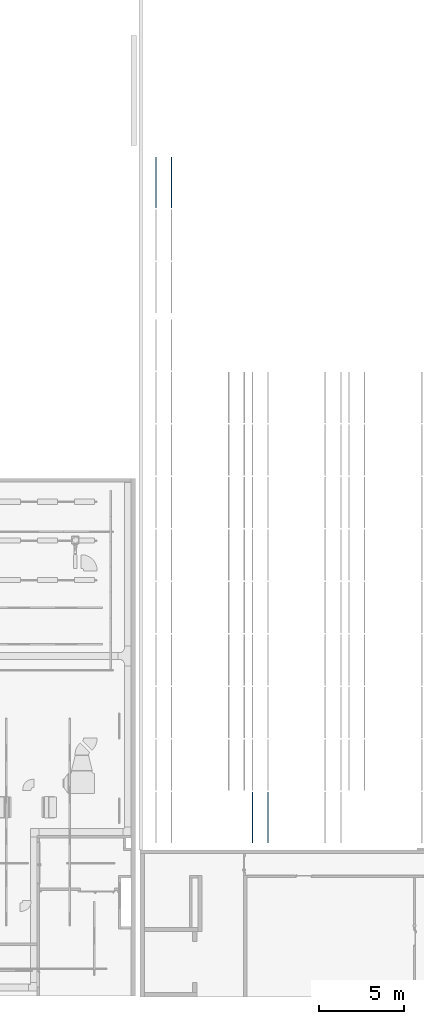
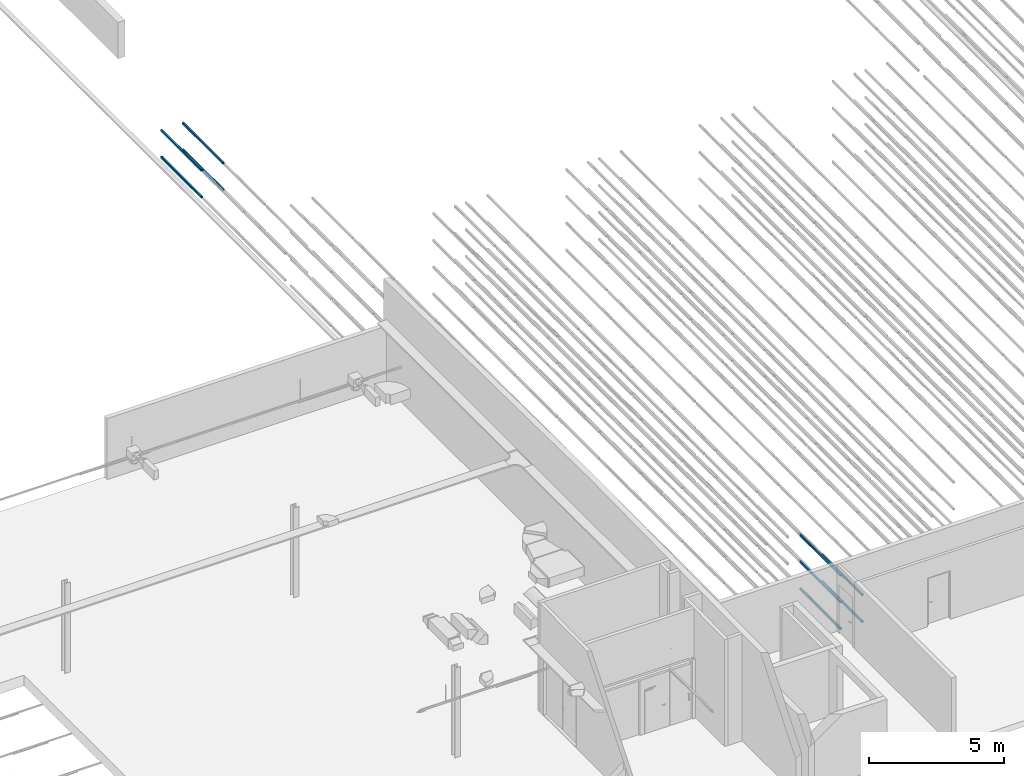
# One storey, part 18 of 290: 9 beams.
"""IFC2X3 building model written with IfcOpenShell, lengths in metres."""

from ifc_helpers import new_model, entity, si_unit, converted_unit, derived_unit, direction, frame, frame_2d, origin, place, context, subcontext, project, spatial, polyline, circle_curve, parameter, trimmed, segment, composite_curve, outline, extrude, material, type_object, element, save


model = new_model("IFC2X3")

# Units and contexts
model_context = context("Model", 3, precision=1e-05, world=origin(), true_north=direction((6.12303176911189e-17, 1.0)))
body_context = subcontext(model_context, "Body", "Model", "MODEL_VIEW")
ifc_project = project(units=[si_unit("LENGTHUNIT", "METRE"), si_unit("AREAUNIT", "SQUARE_METRE"), si_unit("VOLUMEUNIT", "CUBIC_METRE"), converted_unit("PLANEANGLEUNIT", "DEGREE", entity("IfcRatioMeasure", 0.0174532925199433), si_unit("PLANEANGLEUNIT", "RADIAN"), dimensions=[0, 0, 0, 0, 0, 0, 0]), si_unit("MASSUNIT", "GRAM", prefix="KILO"), derived_unit("MASSDENSITYUNIT", [(si_unit("MASSUNIT", "GRAM", prefix="KILO"), 1), (si_unit("LENGTHUNIT", "METRE"), -3)]), derived_unit("MOMENTOFINERTIAUNIT", [(si_unit("LENGTHUNIT", "METRE"), 4)]), si_unit("TIMEUNIT", "SECOND"), si_unit("FREQUENCYUNIT", "HERTZ"), si_unit("THERMODYNAMICTEMPERATUREUNIT", "DEGREE_CELSIUS"), derived_unit("THERMALTRANSMITTANCEUNIT", [(si_unit("MASSUNIT", "GRAM", prefix="KILO"), 1), (si_unit("THERMODYNAMICTEMPERATUREUNIT", "KELVIN"), -1), (si_unit("TIMEUNIT", "SECOND"), -3)]), derived_unit("VOLUMETRICFLOWRATEUNIT", [(si_unit("LENGTHUNIT", "METRE"), 3), (si_unit("TIMEUNIT", "SECOND"), -1)]), si_unit("ELECTRICCURRENTUNIT", "AMPERE"), si_unit("ELECTRICVOLTAGEUNIT", "VOLT"), si_unit("POWERUNIT", "WATT"), si_unit("FORCEUNIT", "NEWTON", prefix="KILO"), si_unit("ILLUMINANCEUNIT", "LUX"), si_unit("LUMINOUSFLUXUNIT", "LUMEN"), si_unit("LUMINOUSINTENSITYUNIT", "CANDELA"), derived_unit("USERDEFINED", [(si_unit("MASSUNIT", "GRAM", prefix="KILO"), -1), (si_unit("LENGTHUNIT", "METRE"), -2), (si_unit("TIMEUNIT", "SECOND"), 3), (si_unit("LUMINOUSFLUXUNIT", "LUMEN"), 1)]), derived_unit("LINEARVELOCITYUNIT", [(si_unit("LENGTHUNIT", "METRE"), 1), (si_unit("TIMEUNIT", "SECOND"), -1)]), si_unit("PRESSUREUNIT", "PASCAL"), derived_unit("USERDEFINED", [(si_unit("LENGTHUNIT", "METRE"), -2), (si_unit("MASSUNIT", "GRAM", prefix="KILO"), 1), (si_unit("TIMEUNIT", "SECOND"), -2)]), derived_unit("LINEARFORCEUNIT", [(si_unit("MASSUNIT", "GRAM", prefix="KILO"), 1), (si_unit("LENGTHUNIT", "METRE"), 1), (si_unit("TIMEUNIT", "SECOND"), -2), (si_unit("LENGTHUNIT", "METRE"), -1)]), derived_unit("PLANARFORCEUNIT", [(si_unit("MASSUNIT", "GRAM", prefix="KILO"), 1), (si_unit("LENGTHUNIT", "METRE"), 1), (si_unit("TIMEUNIT", "SECOND"), -2), (si_unit("LENGTHUNIT", "METRE"), -2)])], contexts=[model_context])

# Site, building, storey
site_placement = place(None, origin())
site = spatial("IfcSite", under=ifc_project, at=site_placement, Name="Default", CompositionType="ELEMENT")
building_placement = place(site_placement, origin())
building = spatial("IfcBuilding", under=site, at=building_placement, CompositionType="ELEMENT")
storey_placement = place(building_placement, frame((0.0, 0.0, 4.0)))
storey = spatial("IfcBuildingStorey", under=building, at=storey_placement, Name="01_OG", CompositionType="ELEMENT", Elevation=4.0)

# Beams
ifc_material = material(Name="Metall - Baustahl S235 blau")
beam_type = type_object("IfcBeamType", Name="RHS Träger (EN 10219-2):RHS 100 x 75 x 5", PredefinedType="NOTDEFINED")
beam_1_placement = place(storey_placement, frame((-200.715111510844, 24.048088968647, 0.0150000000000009), z_axis=(0.0, 0.0, 1.0), x_axis=(0.0, 1.0, 0.0)))
element("IfcBeam", 1, at=beam_1_placement, inside=storey, type_object=beam_type, material=ifc_material, Name="RHS Träger (EN 10219-2):RHS 100 x 75 x 5", ObjectType="RHS Träger (EN 10219-2):RHS 100 x 75 x 5", context=body_context, shape_type="SweptSolid", body=[
    extrude(outline(composite_curve([segment(trimmed(circle_curve(frame_2d((-0.0274999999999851, -0.0400000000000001), x_axis=(1.0, 0.0)), 0.01), [parameter(180.0)], [parameter(270.0)], True, "PARAMETER"), True, "CONTINUOUS"), segment(polyline([(-0.0274999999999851, -0.05), (0.0274999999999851, -0.05)]), True, "CONTINUOUS"), segment(trimmed(circle_curve(frame_2d((0.0274999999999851, -0.0400000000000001), x_axis=(1.0, 0.0)), 0.01), [parameter(270.0)], [parameter(5.08888749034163e-14)], True, "PARAMETER"), True, "CONTINUOUS"), segment(polyline([(0.0375000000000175, -0.0400000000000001), (0.0375000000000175, 0.0400000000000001)]), True, "CONTINUOUS"), segment(trimmed(circle_curve(frame_2d((0.0274999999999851, 0.0400000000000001), x_axis=(1.0, 0.0)), 0.01), [parameter(360.0)], [parameter(89.9999999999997)], True, "PARAMETER"), True, "CONTINUOUS"), segment(polyline([(0.0274999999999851, 0.05), (-0.0274999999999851, 0.05)]), True, "CONTINUOUS"), segment(trimmed(circle_curve(frame_2d((-0.0274999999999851, 0.0400000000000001), x_axis=(1.0, 0.0)), 0.01), [parameter(90.0000000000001)], [parameter(180.0)], True, "PARAMETER"), True, "CONTINUOUS"), segment(polyline([(-0.0374999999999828, 0.0400000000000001), (-0.0374999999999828, -0.0400000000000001)]), True, "CONTINUOUS")], self_intersect=False), holes=[composite_curve([segment(polyline([(0.0274999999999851, -0.0450000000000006), (-0.0274999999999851, -0.0450000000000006)]), True, "CONTINUOUS"), segment(trimmed(circle_curve(frame_2d((-0.0274999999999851, -0.0400000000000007), x_axis=(1.0, 0.0)), 0.005), [parameter(180.0)], [parameter(270.0)], True, "PARAMETER"), False, "CONTINUOUS"), segment(polyline([(-0.0325000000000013, -0.0400000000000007), (-0.0325000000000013, 0.039999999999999)]), True, "CONTINUOUS"), segment(trimmed(circle_curve(frame_2d((-0.0274999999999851, 0.039999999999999), x_axis=(1.0, 0.0)), 0.005), [parameter(90.0000000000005)], [parameter(180.0)], True, "PARAMETER"), False, "CONTINUOUS"), segment(polyline([(-0.0274999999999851, 0.044999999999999), (0.0274999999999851, 0.044999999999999)]), True, "CONTINUOUS"), segment(trimmed(circle_curve(frame_2d((0.0274999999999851, 0.039999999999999), x_axis=(1.0, 0.0)), 0.005), [parameter(0.0)], [parameter(90.0000000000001)], True, "PARAMETER"), False, "CONTINUOUS"), segment(polyline([(0.0325000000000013, 0.039999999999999), (0.0325000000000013, -0.0400000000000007)]), True, "CONTINUOUS"), segment(trimmed(circle_curve(frame_2d((0.0274999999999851, -0.0400000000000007), x_axis=(1.0, 0.0)), 0.005), [parameter(270.0)], [parameter(4.07110999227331e-13)], True, "PARAMETER"), False, "CONTINUOUS")], self_intersect=False)]), frame((9.99999999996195e-05, 0.0375000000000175, -0.0500000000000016), z_axis=(1.0, 0.0, 0.0), x_axis=(0.0, -1.0, 0.0)), (0.0, 0.0, 1.0), 2.9998),
])
beam_2_placement = place(storey_placement, frame((-200.715111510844, 24.048088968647, 1.23), z_axis=(0.0, 0.0, 1.0), x_axis=(0.0, 1.0, 0.0)))
element("IfcBeam", 2, at=beam_2_placement, inside=storey, type_object=beam_type, material=ifc_material, Name="RHS Träger (EN 10219-2):RHS 100 x 75 x 5", ObjectType="RHS Träger (EN 10219-2):RHS 100 x 75 x 5", context=body_context, shape_type="SweptSolid", body=[
    extrude(outline(composite_curve([segment(trimmed(circle_curve(frame_2d((-0.0274999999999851, -0.0399999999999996), x_axis=(1.0, 0.0)), 0.01), [parameter(180.0)], [parameter(270.0)], True, "PARAMETER"), True, "CONTINUOUS"), segment(polyline([(-0.0274999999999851, -0.0499999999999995), (0.0274999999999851, -0.0499999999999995)]), True, "CONTINUOUS"), segment(trimmed(circle_curve(frame_2d((0.0274999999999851, -0.0399999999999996), x_axis=(1.0, 0.0)), 0.01), [parameter(270.0)], [parameter(5.08888749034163e-14)], True, "PARAMETER"), True, "CONTINUOUS"), segment(polyline([(0.0375000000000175, -0.0399999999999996), (0.0375000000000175, 0.0399999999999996)]), True, "CONTINUOUS"), segment(trimmed(circle_curve(frame_2d((0.0274999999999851, 0.0399999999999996), x_axis=(1.0, 0.0)), 0.01), [parameter(360.0)], [parameter(89.9999999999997)], True, "PARAMETER"), True, "CONTINUOUS"), segment(polyline([(0.0274999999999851, 0.0500000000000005), (-0.0274999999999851, 0.0500000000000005)]), True, "CONTINUOUS"), segment(trimmed(circle_curve(frame_2d((-0.0274999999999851, 0.0399999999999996), x_axis=(1.0, 0.0)), 0.01), [parameter(90.0000000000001)], [parameter(180.0)], True, "PARAMETER"), True, "CONTINUOUS"), segment(polyline([(-0.0374999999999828, 0.0399999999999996), (-0.0374999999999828, -0.0399999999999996)]), True, "CONTINUOUS")], self_intersect=False), holes=[composite_curve([segment(polyline([(0.0274999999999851, -0.0450000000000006), (-0.0274999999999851, -0.0450000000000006)]), True, "CONTINUOUS"), segment(trimmed(circle_curve(frame_2d((-0.0274999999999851, -0.0400000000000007), x_axis=(1.0, 0.0)), 0.005), [parameter(180.0)], [parameter(270.0)], True, "PARAMETER"), False, "CONTINUOUS"), segment(polyline([(-0.0325000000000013, -0.0400000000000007), (-0.0325000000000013, 0.0399999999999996)]), True, "CONTINUOUS"), segment(trimmed(circle_curve(frame_2d((-0.0274999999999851, 0.0399999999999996), x_axis=(1.0, 0.0)), 0.005), [parameter(90.0000000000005)], [parameter(180.0)], True, "PARAMETER"), False, "CONTINUOUS"), segment(polyline([(-0.0274999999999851, 0.0449999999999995), (0.0274999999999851, 0.0449999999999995)]), True, "CONTINUOUS"), segment(trimmed(circle_curve(frame_2d((0.0274999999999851, 0.0399999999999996), x_axis=(1.0, 0.0)), 0.005), [parameter(0.0)], [parameter(90.0000000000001)], True, "PARAMETER"), False, "CONTINUOUS"), segment(polyline([(0.0325000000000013, 0.0399999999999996), (0.0325000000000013, -0.0400000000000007)]), True, "CONTINUOUS"), segment(trimmed(circle_curve(frame_2d((0.0274999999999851, -0.0400000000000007), x_axis=(1.0, 0.0)), 0.005), [parameter(270.0)], [parameter(4.07110999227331e-13)], True, "PARAMETER"), False, "CONTINUOUS")], self_intersect=False)]), frame((9.99999999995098e-05, 0.0375000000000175, -0.0500000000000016), z_axis=(1.0, 0.0, 0.0), x_axis=(0.0, -1.0, 0.0)), (0.0, 0.0, 1.0), 2.9998),
])
beam_3_placement = place(storey_placement, frame((-200.715111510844, 24.048088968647, 2.445), z_axis=(0.0, 0.0, 1.0), x_axis=(0.0, 1.0, 0.0)))
element("IfcBeam", 3, at=beam_3_placement, inside=storey, type_object=beam_type, material=ifc_material, Name="RHS Träger (EN 10219-2):RHS 100 x 75 x 5", ObjectType="RHS Träger (EN 10219-2):RHS 100 x 75 x 5", context=body_context, shape_type="SweptSolid", body=[
    extrude(outline(composite_curve([segment(trimmed(circle_curve(frame_2d((-0.0274999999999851, -0.0399999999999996), x_axis=(1.0, 0.0)), 0.01), [parameter(180.0)], [parameter(270.0)], True, "PARAMETER"), True, "CONTINUOUS"), segment(polyline([(-0.0274999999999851, -0.0499999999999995), (0.0274999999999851, -0.0499999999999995)]), True, "CONTINUOUS"), segment(trimmed(circle_curve(frame_2d((0.0274999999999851, -0.0399999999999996), x_axis=(1.0, 0.0)), 0.01), [parameter(270.0)], [parameter(5.08888749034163e-14)], True, "PARAMETER"), True, "CONTINUOUS"), segment(polyline([(0.0375000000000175, -0.0399999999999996), (0.0375000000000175, 0.0399999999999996)]), True, "CONTINUOUS"), segment(trimmed(circle_curve(frame_2d((0.0274999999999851, 0.0399999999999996), x_axis=(1.0, 0.0)), 0.01), [parameter(360.0)], [parameter(89.9999999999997)], True, "PARAMETER"), True, "CONTINUOUS"), segment(polyline([(0.0274999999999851, 0.0500000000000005), (-0.0274999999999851, 0.0500000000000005)]), True, "CONTINUOUS"), segment(trimmed(circle_curve(frame_2d((-0.0274999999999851, 0.0399999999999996), x_axis=(1.0, 0.0)), 0.01), [parameter(90.0000000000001)], [parameter(180.0)], True, "PARAMETER"), True, "CONTINUOUS"), segment(polyline([(-0.0374999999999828, 0.0399999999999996), (-0.0374999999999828, -0.0399999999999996)]), True, "CONTINUOUS")], self_intersect=False), holes=[composite_curve([segment(polyline([(0.0274999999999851, -0.0450000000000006), (-0.0274999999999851, -0.0450000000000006)]), True, "CONTINUOUS"), segment(trimmed(circle_curve(frame_2d((-0.0274999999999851, -0.0400000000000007), x_axis=(1.0, 0.0)), 0.005), [parameter(180.0)], [parameter(270.0)], True, "PARAMETER"), False, "CONTINUOUS"), segment(polyline([(-0.0325000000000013, -0.0400000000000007), (-0.0325000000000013, 0.0399999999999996)]), True, "CONTINUOUS"), segment(trimmed(circle_curve(frame_2d((-0.0274999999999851, 0.0399999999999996), x_axis=(1.0, 0.0)), 0.005), [parameter(90.0000000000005)], [parameter(180.0)], True, "PARAMETER"), False, "CONTINUOUS"), segment(polyline([(-0.0274999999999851, 0.0449999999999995), (0.0274999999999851, 0.0449999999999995)]), True, "CONTINUOUS"), segment(trimmed(circle_curve(frame_2d((0.0274999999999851, 0.0399999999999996), x_axis=(1.0, 0.0)), 0.005), [parameter(0.0)], [parameter(90.0000000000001)], True, "PARAMETER"), False, "CONTINUOUS"), segment(polyline([(0.0325000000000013, 0.0399999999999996), (0.0325000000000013, -0.0400000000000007)]), True, "CONTINUOUS"), segment(trimmed(circle_curve(frame_2d((0.0274999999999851, -0.0400000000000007), x_axis=(1.0, 0.0)), 0.005), [parameter(270.0)], [parameter(4.07110999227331e-13)], True, "PARAMETER"), False, "CONTINUOUS")], self_intersect=False)]), frame((9.99999999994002e-05, 0.0375000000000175, -0.0500000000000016), z_axis=(1.0, 0.0, 0.0), x_axis=(0.0, -1.0, 0.0)), (0.0, 0.0, 1.0), 2.9998),
])
beam_4_placement = place(storey_placement, frame((-199.865111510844, 24.048088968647, 0.0150000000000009), z_axis=(0.0, 0.0, 1.0), x_axis=(0.0, 1.0, 0.0)))
element("IfcBeam", 4, at=beam_4_placement, inside=storey, type_object=beam_type, material=ifc_material, Name="RHS Träger (EN 10219-2):RHS 100 x 75 x 5", ObjectType="RHS Träger (EN 10219-2):RHS 100 x 75 x 5", context=body_context, shape_type="SweptSolid", body=[
    extrude(outline(composite_curve([segment(polyline([(-0.0400000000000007, -0.0374999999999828), (0.0399999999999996, -0.0374999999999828)]), True, "CONTINUOUS"), segment(trimmed(circle_curve(frame_2d((0.0399999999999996, -0.0274999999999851), x_axis=(0.0, 1.0)), 0.01), [parameter(180.0)], [parameter(270.0)], True, "PARAMETER"), True, "CONTINUOUS"), segment(polyline([(0.0499999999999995, -0.0274999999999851), (0.0499999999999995, 0.0274999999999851)]), True, "CONTINUOUS"), segment(trimmed(circle_curve(frame_2d((0.0399999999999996, 0.0274999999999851), x_axis=(0.0, 1.0)), 0.01), [parameter(270.0)], [parameter(4.07110999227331e-13)], True, "PARAMETER"), True, "CONTINUOUS"), segment(polyline([(0.0399999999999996, 0.0375000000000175), (-0.0400000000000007, 0.0375000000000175)]), True, "CONTINUOUS"), segment(trimmed(circle_curve(frame_2d((-0.0400000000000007, 0.0274999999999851), x_axis=(0.0, 1.0)), 0.01), [parameter(360.0)], [parameter(90.0000000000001)], True, "PARAMETER"), True, "CONTINUOUS"), segment(polyline([(-0.0500000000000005, 0.0274999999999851), (-0.0500000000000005, -0.0274999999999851)]), True, "CONTINUOUS"), segment(trimmed(circle_curve(frame_2d((-0.0400000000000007, -0.0274999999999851), x_axis=(0.0, 1.0)), 0.01), [parameter(90.0000000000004)], [parameter(180.0)], True, "PARAMETER"), True, "CONTINUOUS")], self_intersect=False), holes=[composite_curve([segment(trimmed(circle_curve(frame_2d((-0.0400000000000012, 0.0274999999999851), x_axis=(0.0, 1.0)), 0.005), [parameter(360.0)], [parameter(89.9999999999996)], True, "PARAMETER"), False, "CONTINUOUS"), segment(polyline([(-0.0400000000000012, 0.0325000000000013), (0.0399999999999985, 0.0325000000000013)]), True, "CONTINUOUS"), segment(trimmed(circle_curve(frame_2d((0.0399999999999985, 0.0274999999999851), x_axis=(0.0, 1.0)), 0.005), [parameter(270.0)], [parameter(0.0)], True, "PARAMETER"), False, "CONTINUOUS"), segment(polyline([(0.0449999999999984, 0.0274999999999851), (0.0449999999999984, -0.0274999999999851)]), True, "CONTINUOUS"), segment(trimmed(circle_curve(frame_2d((0.0399999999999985, -0.0274999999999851), x_axis=(0.0, 1.0)), 0.005), [parameter(180.0)], [parameter(269.999999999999)], True, "PARAMETER"), False, "CONTINUOUS"), segment(polyline([(0.0399999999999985, -0.0325000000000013), (-0.0400000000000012, -0.0325000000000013)]), True, "CONTINUOUS"), segment(trimmed(circle_curve(frame_2d((-0.0400000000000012, -0.0274999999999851), x_axis=(0.0, 1.0)), 0.005), [parameter(90.0000000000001)], [parameter(180.0)], True, "PARAMETER"), False, "CONTINUOUS"), segment(polyline([(-0.0450000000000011, -0.0274999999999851), (-0.0450000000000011, 0.0274999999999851)]), True, "CONTINUOUS")], self_intersect=False)]), frame((9.99999999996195e-05, -0.0375000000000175, -0.0500000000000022), z_axis=(1.0, 0.0, 0.0), x_axis=(0.0, 0.0, -1.0)), (0.0, 0.0, 1.0), 2.9998),
])
beam_5_placement = place(storey_placement, frame((-199.865111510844, 24.048088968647, 1.23), z_axis=(0.0, 0.0, 1.0), x_axis=(0.0, 1.0, 0.0)))
element("IfcBeam", 5, at=beam_5_placement, inside=storey, type_object=beam_type, material=ifc_material, Name="RHS Träger (EN 10219-2):RHS 100 x 75 x 5", ObjectType="RHS Träger (EN 10219-2):RHS 100 x 75 x 5", context=body_context, shape_type="SweptSolid", body=[
    extrude(outline(composite_curve([segment(polyline([(-0.0399999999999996, -0.0374999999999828), (0.0399999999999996, -0.0374999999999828)]), True, "CONTINUOUS"), segment(trimmed(circle_curve(frame_2d((0.0399999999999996, -0.0274999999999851), x_axis=(0.0, 1.0)), 0.01), [parameter(180.0)], [parameter(270.0)], True, "PARAMETER"), True, "CONTINUOUS"), segment(polyline([(0.0500000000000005, -0.0274999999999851), (0.0500000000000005, 0.0274999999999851)]), True, "CONTINUOUS"), segment(trimmed(circle_curve(frame_2d((0.0399999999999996, 0.0274999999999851), x_axis=(0.0, 1.0)), 0.01), [parameter(270.0)], [parameter(4.07110999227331e-13)], True, "PARAMETER"), True, "CONTINUOUS"), segment(polyline([(0.0399999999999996, 0.0375000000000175), (-0.0399999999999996, 0.0375000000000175)]), True, "CONTINUOUS"), segment(trimmed(circle_curve(frame_2d((-0.0399999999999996, 0.0274999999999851), x_axis=(0.0, 1.0)), 0.01), [parameter(360.0)], [parameter(90.0000000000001)], True, "PARAMETER"), True, "CONTINUOUS"), segment(polyline([(-0.0499999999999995, 0.0274999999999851), (-0.0499999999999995, -0.0274999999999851)]), True, "CONTINUOUS"), segment(trimmed(circle_curve(frame_2d((-0.0399999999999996, -0.0274999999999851), x_axis=(0.0, 1.0)), 0.01), [parameter(90.0000000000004)], [parameter(180.0)], True, "PARAMETER"), True, "CONTINUOUS")], self_intersect=False), holes=[composite_curve([segment(trimmed(circle_curve(frame_2d((-0.0400000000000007, 0.0274999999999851), x_axis=(0.0, 1.0)), 0.005), [parameter(360.0)], [parameter(89.9999999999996)], True, "PARAMETER"), False, "CONTINUOUS"), segment(polyline([(-0.0400000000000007, 0.0325000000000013), (0.0399999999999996, 0.0325000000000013)]), True, "CONTINUOUS"), segment(trimmed(circle_curve(frame_2d((0.0399999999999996, 0.0274999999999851), x_axis=(0.0, 1.0)), 0.005), [parameter(270.0)], [parameter(0.0)], True, "PARAMETER"), False, "CONTINUOUS"), segment(polyline([(0.0449999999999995, 0.0274999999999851), (0.0449999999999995, -0.0274999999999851)]), True, "CONTINUOUS"), segment(trimmed(circle_curve(frame_2d((0.0399999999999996, -0.0274999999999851), x_axis=(0.0, 1.0)), 0.005), [parameter(180.0)], [parameter(269.999999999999)], True, "PARAMETER"), False, "CONTINUOUS"), segment(polyline([(0.0399999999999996, -0.0325000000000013), (-0.0400000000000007, -0.0325000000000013)]), True, "CONTINUOUS"), segment(trimmed(circle_curve(frame_2d((-0.0400000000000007, -0.0274999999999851), x_axis=(0.0, 1.0)), 0.005), [parameter(90.0000000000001)], [parameter(180.0)], True, "PARAMETER"), False, "CONTINUOUS"), segment(polyline([(-0.0450000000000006, -0.0274999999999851), (-0.0450000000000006, 0.0274999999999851)]), True, "CONTINUOUS")], self_intersect=False)]), frame((9.99999999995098e-05, -0.0375000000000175, -0.0500000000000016), z_axis=(1.0, 0.0, 0.0), x_axis=(0.0, 0.0, -1.0)), (0.0, 0.0, 1.0), 2.9998),
])
beam_6_placement = place(storey_placement, frame((-206.415111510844, 61.5488562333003, -1.2), z_axis=(0.0, 0.0, 1.0), x_axis=(0.0, 1.0, 0.0)))
element("IfcBeam", 6, at=beam_6_placement, inside=storey, type_object=beam_type, material=ifc_material, Name="RHS Träger (EN 10219-2):RHS 100 x 75 x 5", ObjectType="RHS Träger (EN 10219-2):RHS 100 x 75 x 5", context=body_context, shape_type="SweptSolid", body=[
    extrude(outline(composite_curve([segment(trimmed(circle_curve(frame_2d((-0.0274999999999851, -0.0400000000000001), x_axis=(1.0, 0.0)), 0.01), [parameter(180.0)], [parameter(270.0)], True, "PARAMETER"), True, "CONTINUOUS"), segment(polyline([(-0.0274999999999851, -0.0499999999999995), (0.0274999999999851, -0.0499999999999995)]), True, "CONTINUOUS"), segment(trimmed(circle_curve(frame_2d((0.0274999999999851, -0.0400000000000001), x_axis=(1.0, 0.0)), 0.01), [parameter(270.0)], [parameter(5.08888749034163e-14)], True, "PARAMETER"), True, "CONTINUOUS"), segment(polyline([(0.0375000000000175, -0.0399999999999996), (0.0375000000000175, 0.0400000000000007)]), True, "CONTINUOUS"), segment(trimmed(circle_curve(frame_2d((0.0274999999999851, 0.0400000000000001), x_axis=(1.0, 0.0)), 0.01), [parameter(360.0)], [parameter(89.9999999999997)], True, "PARAMETER"), True, "CONTINUOUS"), segment(polyline([(0.0274999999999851, 0.0500000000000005), (-0.0274999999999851, 0.0500000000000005)]), True, "CONTINUOUS"), segment(trimmed(circle_curve(frame_2d((-0.0274999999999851, 0.0400000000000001), x_axis=(1.0, 0.0)), 0.01), [parameter(90.0000000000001)], [parameter(180.0)], True, "PARAMETER"), True, "CONTINUOUS"), segment(polyline([(-0.0374999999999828, 0.0400000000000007), (-0.0374999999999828, -0.0399999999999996)]), True, "CONTINUOUS")], self_intersect=False), holes=[composite_curve([segment(polyline([(0.0274999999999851, -0.0450000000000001), (-0.0274999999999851, -0.0450000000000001)]), True, "CONTINUOUS"), segment(trimmed(circle_curve(frame_2d((-0.0274999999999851, -0.0400000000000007), x_axis=(1.0, 0.0)), 0.005), [parameter(180.0)], [parameter(270.0)], True, "PARAMETER"), False, "CONTINUOUS"), segment(polyline([(-0.0325000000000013, -0.0400000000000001), (-0.0325000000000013, 0.0399999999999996)]), True, "CONTINUOUS"), segment(trimmed(circle_curve(frame_2d((-0.0274999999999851, 0.039999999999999), x_axis=(1.0, 0.0)), 0.005), [parameter(90.0000000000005)], [parameter(180.0)], True, "PARAMETER"), False, "CONTINUOUS"), segment(polyline([(-0.0274999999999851, 0.0449999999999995), (0.0274999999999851, 0.0449999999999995)]), True, "CONTINUOUS"), segment(trimmed(circle_curve(frame_2d((0.0274999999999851, 0.039999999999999), x_axis=(1.0, 0.0)), 0.005), [parameter(0.0)], [parameter(90.0000000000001)], True, "PARAMETER"), False, "CONTINUOUS"), segment(polyline([(0.0325000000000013, 0.0399999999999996), (0.0325000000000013, -0.0400000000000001)]), True, "CONTINUOUS"), segment(trimmed(circle_curve(frame_2d((0.0274999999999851, -0.0400000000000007), x_axis=(1.0, 0.0)), 0.005), [parameter(270.0)], [parameter(4.07110999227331e-13)], True, "PARAMETER"), False, "CONTINUOUS")], self_intersect=False)]), frame((-0.000799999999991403, 0.0375000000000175, -0.0500000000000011), z_axis=(1.0, 0.0, 0.0), x_axis=(0.0, -1.0, 0.0)), (0.0, 0.0, 1.0), 3.00069999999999),
])
beam_7_placement = place(storey_placement, frame((-205.565111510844, 61.5488562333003, -1.2), z_axis=(0.0, 0.0, 1.0), x_axis=(0.0, 1.0, 0.0)))
element("IfcBeam", 7, at=beam_7_placement, inside=storey, type_object=beam_type, material=ifc_material, Name="RHS Träger (EN 10219-2):RHS 100 x 75 x 5", ObjectType="RHS Träger (EN 10219-2):RHS 100 x 75 x 5", context=body_context, shape_type="SweptSolid", body=[
    extrude(outline(composite_curve([segment(polyline([(-0.0400000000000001, -0.0374999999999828), (0.0400000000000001, -0.0374999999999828)]), True, "CONTINUOUS"), segment(trimmed(circle_curve(frame_2d((0.0399999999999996, -0.0274999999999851), x_axis=(0.0, 1.0)), 0.01), [parameter(180.0)], [parameter(270.0)], True, "PARAMETER"), True, "CONTINUOUS"), segment(polyline([(0.05, -0.0274999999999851), (0.05, 0.0274999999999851)]), True, "CONTINUOUS"), segment(trimmed(circle_curve(frame_2d((0.0399999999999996, 0.0274999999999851), x_axis=(0.0, 1.0)), 0.01), [parameter(270.0)], [parameter(4.07110999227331e-13)], True, "PARAMETER"), True, "CONTINUOUS"), segment(polyline([(0.0400000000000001, 0.0375000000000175), (-0.0400000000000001, 0.0375000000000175)]), True, "CONTINUOUS"), segment(trimmed(circle_curve(frame_2d((-0.0400000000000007, 0.0274999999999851), x_axis=(0.0, 1.0)), 0.01), [parameter(360.0)], [parameter(90.0000000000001)], True, "PARAMETER"), True, "CONTINUOUS"), segment(polyline([(-0.05, 0.0274999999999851), (-0.05, -0.0274999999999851)]), True, "CONTINUOUS"), segment(trimmed(circle_curve(frame_2d((-0.0400000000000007, -0.0274999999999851), x_axis=(0.0, 1.0)), 0.01), [parameter(90.0000000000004)], [parameter(180.0)], True, "PARAMETER"), True, "CONTINUOUS")], self_intersect=False), holes=[composite_curve([segment(trimmed(circle_curve(frame_2d((-0.0400000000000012, 0.0274999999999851), x_axis=(0.0, 1.0)), 0.005), [parameter(360.0)], [parameter(89.9999999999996)], True, "PARAMETER"), False, "CONTINUOUS"), segment(polyline([(-0.0400000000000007, 0.0325000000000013), (0.039999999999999, 0.0325000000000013)]), True, "CONTINUOUS"), segment(trimmed(circle_curve(frame_2d((0.0399999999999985, 0.0274999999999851), x_axis=(0.0, 1.0)), 0.005), [parameter(270.0)], [parameter(0.0)], True, "PARAMETER"), False, "CONTINUOUS"), segment(polyline([(0.044999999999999, 0.0274999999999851), (0.044999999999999, -0.0274999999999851)]), True, "CONTINUOUS"), segment(trimmed(circle_curve(frame_2d((0.0399999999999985, -0.0274999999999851), x_axis=(0.0, 1.0)), 0.005), [parameter(180.0)], [parameter(269.999999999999)], True, "PARAMETER"), False, "CONTINUOUS"), segment(polyline([(0.039999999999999, -0.0325000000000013), (-0.0400000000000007, -0.0325000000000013)]), True, "CONTINUOUS"), segment(trimmed(circle_curve(frame_2d((-0.0400000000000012, -0.0274999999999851), x_axis=(0.0, 1.0)), 0.005), [parameter(90.0000000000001)], [parameter(180.0)], True, "PARAMETER"), False, "CONTINUOUS"), segment(polyline([(-0.0450000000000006, -0.0274999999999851), (-0.0450000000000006, 0.0274999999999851)]), True, "CONTINUOUS")], self_intersect=False)]), frame((-0.000799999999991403, -0.0375000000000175, -0.0500000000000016), z_axis=(1.0, 0.0, 0.0), x_axis=(0.0, 0.0, -1.0)), (0.0, 0.0, 1.0), 3.00069999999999),
])
beam_8_placement = place(storey_placement, frame((-206.415111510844, 61.5488562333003, 0.0150000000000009), z_axis=(0.0, 0.0, 1.0), x_axis=(0.0, 1.0, 0.0)))
element("IfcBeam", 8, at=beam_8_placement, inside=storey, type_object=beam_type, material=ifc_material, Name="RHS Träger (EN 10219-2):RHS 100 x 75 x 5", ObjectType="RHS Träger (EN 10219-2):RHS 100 x 75 x 5", context=body_context, shape_type="SweptSolid", body=[
    extrude(outline(composite_curve([segment(trimmed(circle_curve(frame_2d((-0.0274999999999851, -0.0400000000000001), x_axis=(1.0, 0.0)), 0.01), [parameter(180.0)], [parameter(270.0)], True, "PARAMETER"), True, "CONTINUOUS"), segment(polyline([(-0.0274999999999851, -0.0499999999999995), (0.0274999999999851, -0.0499999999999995)]), True, "CONTINUOUS"), segment(trimmed(circle_curve(frame_2d((0.0274999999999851, -0.0400000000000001), x_axis=(1.0, 0.0)), 0.01), [parameter(270.0)], [parameter(5.08888749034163e-14)], True, "PARAMETER"), True, "CONTINUOUS"), segment(polyline([(0.0375000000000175, -0.0399999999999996), (0.0375000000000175, 0.0400000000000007)]), True, "CONTINUOUS"), segment(trimmed(circle_curve(frame_2d((0.0274999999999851, 0.0400000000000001), x_axis=(1.0, 0.0)), 0.01), [parameter(360.0)], [parameter(89.9999999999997)], True, "PARAMETER"), True, "CONTINUOUS"), segment(polyline([(0.0274999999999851, 0.0500000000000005), (-0.0274999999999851, 0.0500000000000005)]), True, "CONTINUOUS"), segment(trimmed(circle_curve(frame_2d((-0.0274999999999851, 0.0400000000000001), x_axis=(1.0, 0.0)), 0.01), [parameter(90.0000000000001)], [parameter(180.0)], True, "PARAMETER"), True, "CONTINUOUS"), segment(polyline([(-0.0374999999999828, 0.0400000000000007), (-0.0374999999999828, -0.0399999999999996)]), True, "CONTINUOUS")], self_intersect=False), holes=[composite_curve([segment(polyline([(0.0274999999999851, -0.0450000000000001), (-0.0274999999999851, -0.0450000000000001)]), True, "CONTINUOUS"), segment(trimmed(circle_curve(frame_2d((-0.0274999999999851, -0.0400000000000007), x_axis=(1.0, 0.0)), 0.005), [parameter(180.0)], [parameter(270.0)], True, "PARAMETER"), False, "CONTINUOUS"), segment(polyline([(-0.0325000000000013, -0.0400000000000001), (-0.0325000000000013, 0.0399999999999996)]), True, "CONTINUOUS"), segment(trimmed(circle_curve(frame_2d((-0.0274999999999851, 0.039999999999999), x_axis=(1.0, 0.0)), 0.005), [parameter(90.0000000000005)], [parameter(180.0)], True, "PARAMETER"), False, "CONTINUOUS"), segment(polyline([(-0.0274999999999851, 0.0449999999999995), (0.0274999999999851, 0.0449999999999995)]), True, "CONTINUOUS"), segment(trimmed(circle_curve(frame_2d((0.0274999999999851, 0.039999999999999), x_axis=(1.0, 0.0)), 0.005), [parameter(0.0)], [parameter(90.0000000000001)], True, "PARAMETER"), False, "CONTINUOUS"), segment(polyline([(0.0325000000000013, 0.0399999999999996), (0.0325000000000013, -0.0400000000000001)]), True, "CONTINUOUS"), segment(trimmed(circle_curve(frame_2d((0.0274999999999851, -0.0400000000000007), x_axis=(1.0, 0.0)), 0.005), [parameter(270.0)], [parameter(4.07110999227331e-13)], True, "PARAMETER"), False, "CONTINUOUS")], self_intersect=False)]), frame((-0.000799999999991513, 0.0375000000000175, -0.0500000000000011), z_axis=(1.0, 0.0, 0.0), x_axis=(0.0, -1.0, 0.0)), (0.0, 0.0, 1.0), 3.00069999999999),
])
beam_9_placement = place(storey_placement, frame((-205.565111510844, 61.5488562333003, 0.0150000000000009), z_axis=(0.0, 0.0, 1.0), x_axis=(0.0, 1.0, 0.0)))
element("IfcBeam", 9, at=beam_9_placement, inside=storey, type_object=beam_type, material=ifc_material, Name="RHS Träger (EN 10219-2):RHS 100 x 75 x 5", ObjectType="RHS Träger (EN 10219-2):RHS 100 x 75 x 5", context=body_context, shape_type="SweptSolid", body=[
    extrude(outline(composite_curve([segment(polyline([(-0.0400000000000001, -0.0374999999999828), (0.0400000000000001, -0.0374999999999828)]), True, "CONTINUOUS"), segment(trimmed(circle_curve(frame_2d((0.0399999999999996, -0.0274999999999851), x_axis=(0.0, 1.0)), 0.01), [parameter(180.0)], [parameter(270.0)], True, "PARAMETER"), True, "CONTINUOUS"), segment(polyline([(0.05, -0.0274999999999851), (0.05, 0.0274999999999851)]), True, "CONTINUOUS"), segment(trimmed(circle_curve(frame_2d((0.0399999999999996, 0.0274999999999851), x_axis=(0.0, 1.0)), 0.01), [parameter(270.0)], [parameter(4.07110999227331e-13)], True, "PARAMETER"), True, "CONTINUOUS"), segment(polyline([(0.0400000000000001, 0.0375000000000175), (-0.0400000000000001, 0.0375000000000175)]), True, "CONTINUOUS"), segment(trimmed(circle_curve(frame_2d((-0.0400000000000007, 0.0274999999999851), x_axis=(0.0, 1.0)), 0.01), [parameter(360.0)], [parameter(90.0000000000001)], True, "PARAMETER"), True, "CONTINUOUS"), segment(polyline([(-0.05, 0.0274999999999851), (-0.05, -0.0274999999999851)]), True, "CONTINUOUS"), segment(trimmed(circle_curve(frame_2d((-0.0400000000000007, -0.0274999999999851), x_axis=(0.0, 1.0)), 0.01), [parameter(90.0000000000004)], [parameter(180.0)], True, "PARAMETER"), True, "CONTINUOUS")], self_intersect=False), holes=[composite_curve([segment(trimmed(circle_curve(frame_2d((-0.0400000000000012, 0.0274999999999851), x_axis=(0.0, 1.0)), 0.005), [parameter(360.0)], [parameter(89.9999999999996)], True, "PARAMETER"), False, "CONTINUOUS"), segment(polyline([(-0.0400000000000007, 0.0325000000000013), (0.039999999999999, 0.0325000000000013)]), True, "CONTINUOUS"), segment(trimmed(circle_curve(frame_2d((0.0399999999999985, 0.0274999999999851), x_axis=(0.0, 1.0)), 0.005), [parameter(270.0)], [parameter(0.0)], True, "PARAMETER"), False, "CONTINUOUS"), segment(polyline([(0.044999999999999, 0.0274999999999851), (0.044999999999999, -0.0274999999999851)]), True, "CONTINUOUS"), segment(trimmed(circle_curve(frame_2d((0.0399999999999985, -0.0274999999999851), x_axis=(0.0, 1.0)), 0.005), [parameter(180.0)], [parameter(269.999999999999)], True, "PARAMETER"), False, "CONTINUOUS"), segment(polyline([(0.039999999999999, -0.0325000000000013), (-0.0400000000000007, -0.0325000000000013)]), True, "CONTINUOUS"), segment(trimmed(circle_curve(frame_2d((-0.0400000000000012, -0.0274999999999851), x_axis=(0.0, 1.0)), 0.005), [parameter(90.0000000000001)], [parameter(180.0)], True, "PARAMETER"), False, "CONTINUOUS"), segment(polyline([(-0.0450000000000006, -0.0274999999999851), (-0.0450000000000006, 0.0274999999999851)]), True, "CONTINUOUS")], self_intersect=False)]), frame((-0.000799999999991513, -0.0375000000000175, -0.0500000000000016), z_axis=(1.0, 0.0, 0.0), x_axis=(0.0, 0.0, -1.0)), (0.0, 0.0, 1.0), 3.00069999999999),
])

save(model, "model.ifc")
